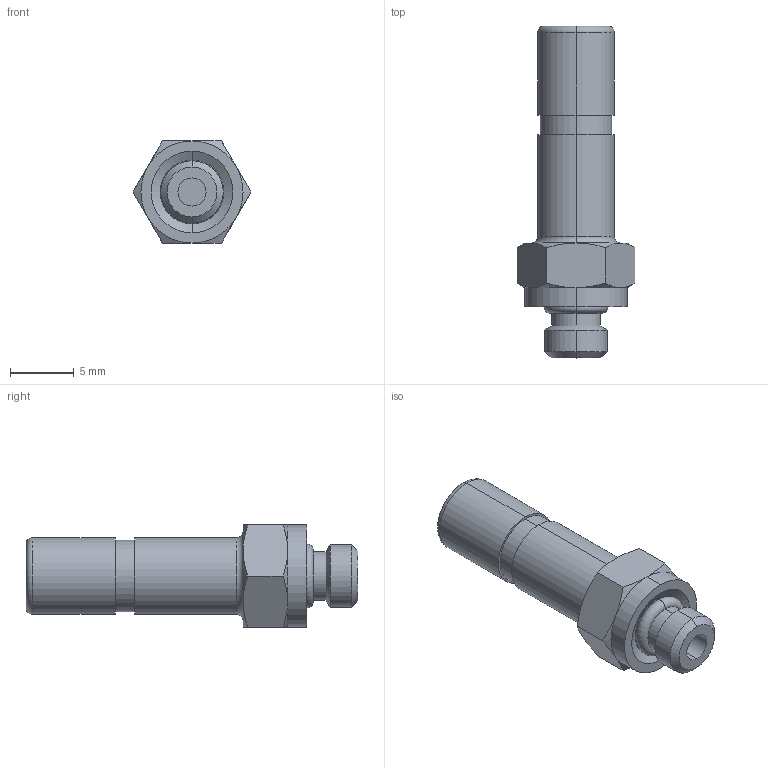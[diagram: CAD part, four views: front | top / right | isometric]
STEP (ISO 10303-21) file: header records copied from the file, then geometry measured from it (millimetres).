
FILE_DESCRIPTION (( 'STEP AP214' ), '1' );
FILE_NAME ('5060000015.step', '2012-10-01T16:59:55', ( '' ), ( '' ), 'SwSTEP 2.0', 'SolidWorks 2012', '' );
FILE_SCHEMA (( 'AUTOMOTIVE_DESIGN' ));
Length unit declared in the file: millimetre
Products named in the file (1): 5060000015
Bounding box: 9.24 x 26 x 8 mm (x, y, z)
Volume: 742.3 mm3; surface area: 710.6 mm2
Topology: 1 solids, 1 shells, 60 faces, 122 edges, 72 vertices
Faces by surface type: cone 18, cylinder 16, plane 16, torus 10
Entity records: 2322 total; most frequent: CARTESIAN_POINT 359, DIRECTION 290, ORIENTED_EDGE 244, AXIS2_PLACEMENT_3D 131, EDGE_CURVE 122, VERTEX_POINT 72, CIRCLE 70, EDGE_LOOP 68
